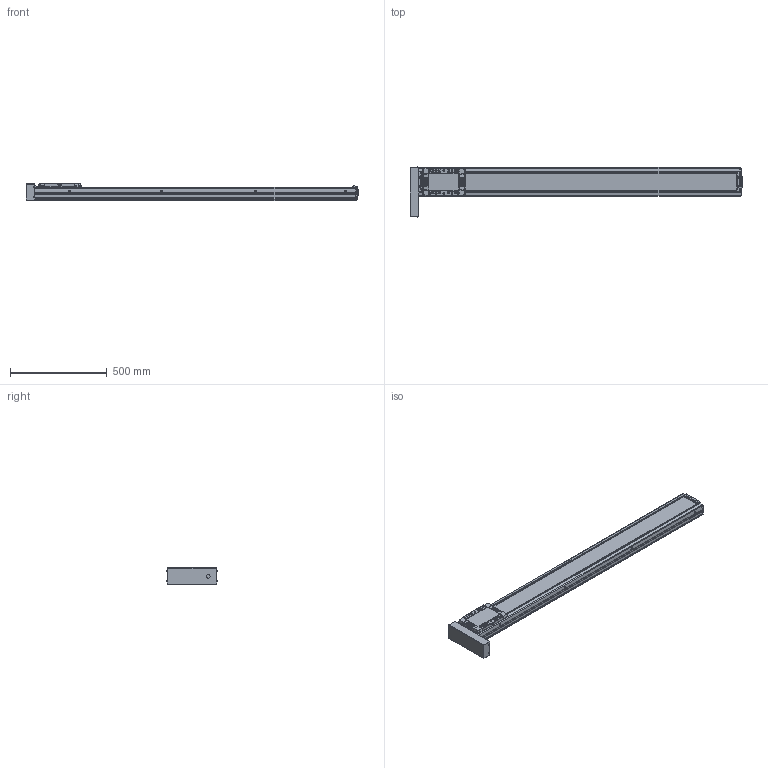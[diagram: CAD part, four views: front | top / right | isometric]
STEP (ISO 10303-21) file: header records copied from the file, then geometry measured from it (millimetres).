
FILE_DESCRIPTION(('STEP AP214'),'1');
FILE_NAME('Z:/Web/3D/SAN150/2013.04 (STP.)/SAN150ㅁㅁ-1400PR.stp','2013-05-07T08:40:42',(' '),(' '),'Spatial InterOp 3D',' ',' ');
FILE_SCHEMA(('automotive_design'));
Length unit declared in the file: millimetre
Products named in the file (44): BHCS M3.0 x 6.0; P; SLBL-SAN150; SLCV-SAN150; FHCS M4.0 x 8.0; BHCS M4.0 x 10.0; SFX-SAN150; RRCV-SAN150; FRBL-SAN150; Spacer; RN15; FRCV-SAN150; Screw 20; BASE-SAN150-000L ; SUS COVER; 스크루 : Round - M5.0 x 6.0
Bounding box: 1720 x 260.73 x 90 mm (x, y, z)
Volume: 9586588 mm3; surface area: 1667397.2 mm2
Topology: 44 solids, 44 shells, 2411 faces, 6184 edges, 3921 vertices
Faces by surface type: plane 1095, cylinder 885, cone 330, sphere 68, bspline 21, torus 12
Entity records: 96040 total; most frequent: CARTESIAN_POINT 16202, DIRECTION 13172, ORIENTED_EDGE 12064, EDGE_CURVE 6032, AXIS2_PLACEMENT_3D 4830, VERTEX_POINT 3921, LINE 3512, VECTOR 3512
